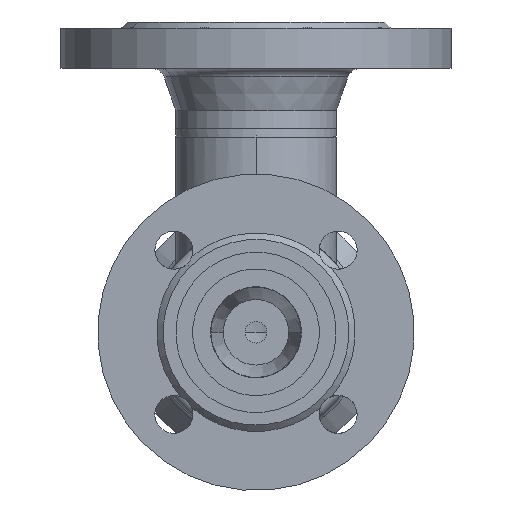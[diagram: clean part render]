
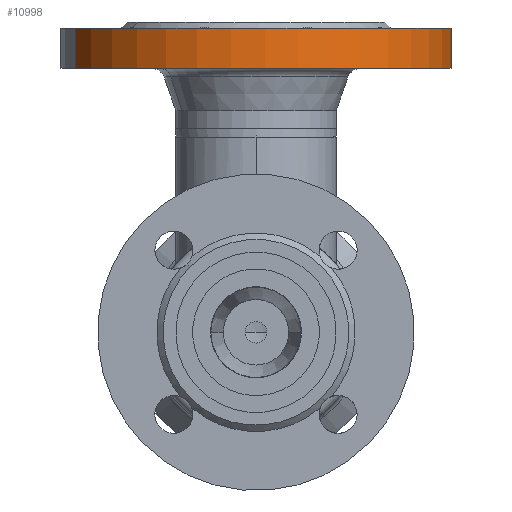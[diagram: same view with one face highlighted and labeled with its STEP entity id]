
A CAD part, front view. The second image highlights one B-rep face of the part: STEP entity #10998.
In plain terms, the highlighted cylindrical face has radius 92.5 mm (diameter 185 mm), a partial arc.
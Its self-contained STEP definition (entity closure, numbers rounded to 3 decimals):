
#7247 = CARTESIAN_POINT ( 'NONE',  ( 92.5, 22., 0. ) ) ;
#8210 = CARTESIAN_POINT ( 'NONE',  ( -92.5, 22., 0. ) ) ;
#8462 = EDGE_CURVE ( 'NONE', #9381, #12601, #8926, .T. ) ;
#8840 = ORIENTED_EDGE ( 'NONE', *, *, #8462, .T. ) ;
#8926 = LINE ( 'NONE', #8927, #8928 ) ;
#8927 = CARTESIAN_POINT ( 'NONE',  ( 92.5, 75., 0. ) ) ;
#8928 = VECTOR ( 'NONE', #8929, 1000. ) ;
#8929 = DIRECTION ( 'NONE',  ( 0., 1., 0. ) ) ;
#9381 = VERTEX_POINT ( 'NONE', #10001 ) ;
#9606 = VERTEX_POINT ( 'NONE', #10210 ) ;
#9646 = ORIENTED_EDGE ( 'NONE', *, *, #11945, .F. ) ;
#9665 = EDGE_CURVE ( 'NONE', #9606, #13348, #10245, .T. ) ;
#9848 = EDGE_CURVE ( 'NONE', #9606, #9381, #10516, .T. ) ;
#10001 = CARTESIAN_POINT ( 'NONE',  ( 92.5, 3., 0. ) ) ;
#10210 = CARTESIAN_POINT ( 'NONE',  ( -92.5, 3., 0. ) ) ;
#10217 = ORIENTED_EDGE ( 'NONE', *, *, #9848, .T. ) ;
#10245 = LINE ( 'NONE', #10246, #10247 ) ;
#10246 = CARTESIAN_POINT ( 'NONE',  ( -92.5, 75., 0. ) ) ;
#10247 = VECTOR ( 'NONE', #10248, 1000. ) ;
#10248 = DIRECTION ( 'NONE',  ( 0., 1., 0. ) ) ;
#10516 = CIRCLE ( 'NONE', #10517, 92.5 ) ;
#10517 = AXIS2_PLACEMENT_3D ( 'NONE', #10518, #10521, #10522 ) ;
#10518 = CARTESIAN_POINT ( 'NONE',  ( 0., 3., 0. ) ) ;
#10521 = DIRECTION ( 'NONE',  ( 0., 1., 0. ) ) ;
#10522 = DIRECTION ( 'NONE',  ( -1., 0., 0. ) ) ;
#10746 = EDGE_LOOP ( 'NONE', ( #10217, #8840, #9646, #15054 ) ) ;
#10998 = ADVANCED_FACE ( 'NONE', ( #11058 ), #11059, .T. ) ;
#11058 = FACE_OUTER_BOUND ( 'NONE', #10746, .T. ) ;
#11059 = CYLINDRICAL_SURFACE ( 'NONE', #11060, 92.5 ) ;
#11060 = AXIS2_PLACEMENT_3D ( 'NONE', #11061, #11062, #11063 ) ;
#11061 = CARTESIAN_POINT ( 'NONE',  ( 0., 75., 0. ) ) ;
#11062 = DIRECTION ( 'NONE',  ( 0., 1., 0. ) ) ;
#11063 = DIRECTION ( 'NONE',  ( -1., 0., 0. ) ) ;
#11945 = EDGE_CURVE ( 'NONE', #13348, #12601, #15018, .T. ) ;
#12601 = VERTEX_POINT ( 'NONE', #7247 ) ;
#13348 = VERTEX_POINT ( 'NONE', #8210 ) ;
#15018 = CIRCLE ( 'NONE', #15019, 92.5 ) ;
#15019 = AXIS2_PLACEMENT_3D ( 'NONE', #15020, #15021, #15022 ) ;
#15020 = CARTESIAN_POINT ( 'NONE',  ( 0., 22., 0. ) ) ;
#15021 = DIRECTION ( 'NONE',  ( 0., 1., 0. ) ) ;
#15022 = DIRECTION ( 'NONE',  ( -1., 0., 0. ) ) ;
#15054 = ORIENTED_EDGE ( 'NONE', *, *, #9665, .F. ) ;
